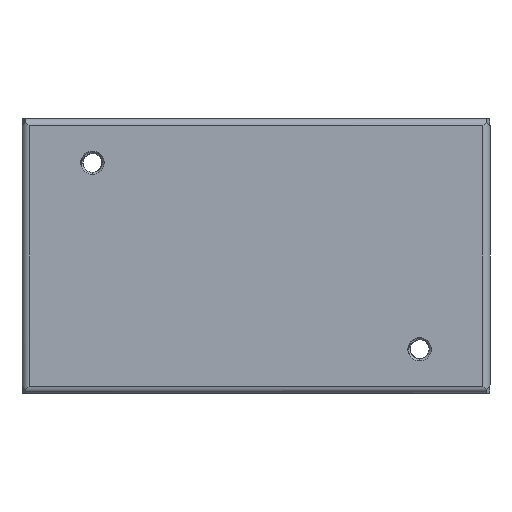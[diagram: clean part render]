
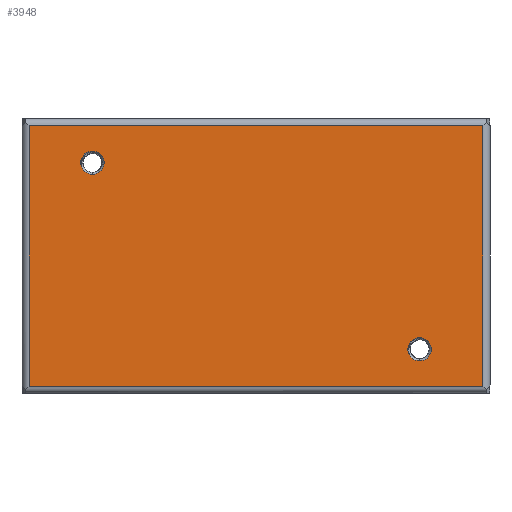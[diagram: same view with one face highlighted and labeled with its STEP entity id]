
A CAD part, front view. The second image highlights one B-rep face of the part: STEP entity #3948.
In plain terms, the highlighted planar face has unit normal (0, -1, 0).
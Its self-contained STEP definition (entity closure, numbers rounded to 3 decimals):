
#406 = AXIS2_PLACEMENT_3D ( 'NONE', #3737, #5292, #5242 ) ;
#546 = DIRECTION ( 'NONE',  ( 0., 1., 0. ) ) ;
#640 = EDGE_CURVE ( 'NONE', #1016, #5233, #6713, .T. ) ;
#921 = LINE ( 'NONE', #4132, #7091 ) ;
#970 = DIRECTION ( 'NONE',  ( 0., 0., 1. ) ) ;
#997 = CARTESIAN_POINT ( 'NONE',  ( 25.2, -0.8, 14.45 ) ) ;
#1016 = VERTEX_POINT ( 'NONE', #5662 ) ;
#1131 = PLANE ( 'NONE',  #406 ) ;
#1348 = AXIS2_PLACEMENT_3D ( 'NONE', #9245, #10674, #5655 ) ;
#1440 = VECTOR ( 'NONE', #6211, 1000. ) ;
#1589 = EDGE_CURVE ( 'NONE', #1016, #7081, #921, .T. ) ;
#1669 = CARTESIAN_POINT ( 'NONE',  ( -25.2, -0.8, 14.45 ) ) ;
#1759 = ORIENTED_EDGE ( 'NONE', *, *, #1589, .T. ) ;
#1844 = ORIENTED_EDGE ( 'NONE', *, *, #10843, .T. ) ;
#1897 = VERTEX_POINT ( 'NONE', #7065 ) ;
#2019 = DIRECTION ( 'NONE',  ( 0., 1., 0. ) ) ;
#2030 = DIRECTION ( 'NONE',  ( 0., 0., 1. ) ) ;
#2055 = CIRCLE ( 'NONE', #1348, 1.3 ) ;
#2179 = CIRCLE ( 'NONE', #7849, 1.3 ) ;
#2345 = EDGE_LOOP ( 'NONE', ( #4011, #7359 ) ) ;
#2437 = DIRECTION ( 'NONE',  ( 1., 0., 0. ) ) ;
#2440 = EDGE_CURVE ( 'NONE', #7081, #5907, #3935, .T. ) ;
#2449 = EDGE_LOOP ( 'NONE', ( #4439, #4564, #10496, #1759 ) ) ;
#2648 = LINE ( 'NONE', #997, #4886 ) ;
#2715 = EDGE_CURVE ( 'NONE', #1897, #8880, #9052, .T. ) ;
#3192 = VECTOR ( 'NONE', #2437, 1000. ) ;
#3514 = DIRECTION ( 'NONE',  ( 0., 0., -1. ) ) ;
#3737 = CARTESIAN_POINT ( 'NONE',  ( -25.2, -0.8, 14.45 ) ) ;
#3738 = AXIS2_PLACEMENT_3D ( 'NONE', #5361, #6189, #2030 ) ;
#3935 = LINE ( 'NONE', #7317, #1440 ) ;
#3948 = ADVANCED_FACE ( 'NONE', ( #8736, #4623, #10488 ), #1131, .F. ) ;
#3979 = AXIS2_PLACEMENT_3D ( 'NONE', #8986, #546, #10885 ) ;
#4011 = ORIENTED_EDGE ( 'NONE', *, *, #9350, .T. ) ;
#4132 = CARTESIAN_POINT ( 'NONE',  ( -25.2, -0.8, 14.45 ) ) ;
#4439 = ORIENTED_EDGE ( 'NONE', *, *, #2440, .T. ) ;
#4564 = ORIENTED_EDGE ( 'NONE', *, *, #10388, .F. ) ;
#4623 = FACE_BOUND ( 'NONE', #5636, .T. ) ;
#4886 = VECTOR ( 'NONE', #9366, 1000. ) ;
#5141 = CARTESIAN_POINT ( 'NONE',  ( 25.2, -0.8, 14.45 ) ) ;
#5233 = VERTEX_POINT ( 'NONE', #5141 ) ;
#5242 = DIRECTION ( 'NONE',  ( -1., 0., 0. ) ) ;
#5292 = DIRECTION ( 'NONE',  ( 0., 1., 0. ) ) ;
#5361 = CARTESIAN_POINT ( 'NONE',  ( 18.175, -0.8, -10.35 ) ) ;
#5529 = EDGE_CURVE ( 'NONE', #10822, #8470, #2179, .T. ) ;
#5627 = CARTESIAN_POINT ( 'NONE',  ( -18.175, -0.8, 9.05 ) ) ;
#5636 = EDGE_LOOP ( 'NONE', ( #8984, #1844 ) ) ;
#5655 = DIRECTION ( 'NONE',  ( 0., 0., 1. ) ) ;
#5662 = CARTESIAN_POINT ( 'NONE',  ( -25.2, -0.8, 14.45 ) ) ;
#5907 = VERTEX_POINT ( 'NONE', #7914 ) ;
#6189 = DIRECTION ( 'NONE',  ( 0., 1., 0. ) ) ;
#6211 = DIRECTION ( 'NONE',  ( 1., 0., 0. ) ) ;
#6642 = CARTESIAN_POINT ( 'NONE',  ( -18.175, -0.8, 11.65 ) ) ;
#6713 = LINE ( 'NONE', #1669, #3192 ) ;
#7065 = CARTESIAN_POINT ( 'NONE',  ( 18.175, -0.8, -11.65 ) ) ;
#7081 = VERTEX_POINT ( 'NONE', #8019 ) ;
#7091 = VECTOR ( 'NONE', #3514, 1000. ) ;
#7156 = CARTESIAN_POINT ( 'NONE',  ( 18.175, -0.8, -9.05 ) ) ;
#7317 = CARTESIAN_POINT ( 'NONE',  ( -25.2, -0.8, -14.45 ) ) ;
#7359 = ORIENTED_EDGE ( 'NONE', *, *, #5529, .T. ) ;
#7849 = AXIS2_PLACEMENT_3D ( 'NONE', #10263, #2019, #970 ) ;
#7914 = CARTESIAN_POINT ( 'NONE',  ( 25.2, -0.8, -14.45 ) ) ;
#8019 = CARTESIAN_POINT ( 'NONE',  ( -25.2, -0.8, -14.45 ) ) ;
#8470 = VERTEX_POINT ( 'NONE', #5627 ) ;
#8736 = FACE_OUTER_BOUND ( 'NONE', #2449, .T. ) ;
#8880 = VERTEX_POINT ( 'NONE', #7156 ) ;
#8984 = ORIENTED_EDGE ( 'NONE', *, *, #2715, .T. ) ;
#8986 = CARTESIAN_POINT ( 'NONE',  ( -18.175, -0.8, 10.35 ) ) ;
#9052 = CIRCLE ( 'NONE', #3738, 1.3 ) ;
#9245 = CARTESIAN_POINT ( 'NONE',  ( 18.175, -0.8, -10.35 ) ) ;
#9350 = EDGE_CURVE ( 'NONE', #8470, #10822, #10695, .T. ) ;
#9366 = DIRECTION ( 'NONE',  ( 0., 0., -1. ) ) ;
#10263 = CARTESIAN_POINT ( 'NONE',  ( -18.175, -0.8, 10.35 ) ) ;
#10388 = EDGE_CURVE ( 'NONE', #5233, #5907, #2648, .T. ) ;
#10488 = FACE_BOUND ( 'NONE', #2345, .T. ) ;
#10496 = ORIENTED_EDGE ( 'NONE', *, *, #640, .F. ) ;
#10674 = DIRECTION ( 'NONE',  ( 0., 1., 0. ) ) ;
#10695 = CIRCLE ( 'NONE', #3979, 1.3 ) ;
#10822 = VERTEX_POINT ( 'NONE', #6642 ) ;
#10843 = EDGE_CURVE ( 'NONE', #8880, #1897, #2055, .T. ) ;
#10885 = DIRECTION ( 'NONE',  ( 0., 0., 1. ) ) ;
